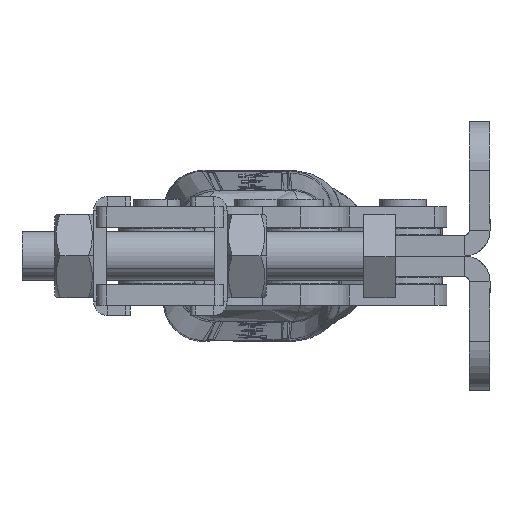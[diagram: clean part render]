
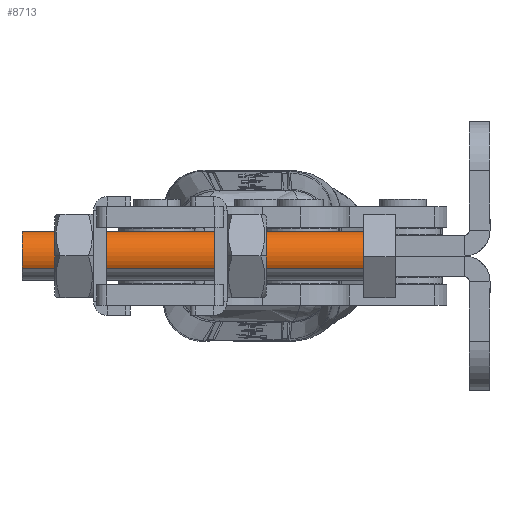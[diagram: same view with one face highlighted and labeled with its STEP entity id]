
A CAD part, left-side view. The second image highlights one B-rep face of the part: STEP entity #8713.
In plain terms, the highlighted cylindrical face has radius 5 mm (diameter 10 mm), a partial arc.
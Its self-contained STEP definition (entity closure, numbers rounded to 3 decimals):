
#50 = DIRECTION ( 'NONE',  ( 0., 0., 1. ) ) ;
#77 = CARTESIAN_POINT ( 'NONE',  ( 0., -70., 5. ) ) ;
#790 = VERTEX_POINT ( 'NONE', #77 ) ;
#1097 = ORIENTED_EDGE ( 'NONE', *, *, #13855, .F. ) ;
#1263 = VERTEX_POINT ( 'NONE', #19437 ) ;
#2972 = CARTESIAN_POINT ( 'NONE',  ( 0., -70., 5. ) ) ;
#3173 = DIRECTION ( 'NONE',  ( 0., 1., 0. ) ) ;
#3580 = VECTOR ( 'NONE', #3173, 1000. ) ;
#3670 = CIRCLE ( 'NONE', #15169, 5. ) ;
#3691 = CARTESIAN_POINT ( 'NONE',  ( 0., -70., 0. ) ) ;
#3880 = FACE_OUTER_BOUND ( 'NONE', #4200, .T. ) ;
#4200 = EDGE_LOOP ( 'NONE', ( #19888, #1097, #8106, #11507 ) ) ;
#6887 = CIRCLE ( 'NONE', #19826, 5. ) ;
#6888 = VERTEX_POINT ( 'NONE', #17125 ) ;
#7399 = DIRECTION ( 'NONE',  ( 0., 1., 0. ) ) ;
#8106 = ORIENTED_EDGE ( 'NONE', *, *, #14860, .T. ) ;
#8713 = ADVANCED_FACE ( 'NONE', ( #3880 ), #12890, .T. ) ;
#9216 = DIRECTION ( 'NONE',  ( 0., 0., 1. ) ) ;
#10295 = DIRECTION ( 'NONE',  ( 0., -1., 0. ) ) ;
#10852 = DIRECTION ( 'NONE',  ( 0., -1., 0. ) ) ;
#11507 = ORIENTED_EDGE ( 'NONE', *, *, #18089, .T. ) ;
#12890 = CYLINDRICAL_SURFACE ( 'NONE', #23190, 5. ) ;
#13855 = EDGE_CURVE ( 'NONE', #790, #1263, #6887, .T. ) ;
#13939 = CARTESIAN_POINT ( 'NONE',  ( 0., -70., -5. ) ) ;
#14145 = VECTOR ( 'NONE', #21121, 1000. ) ;
#14854 = VERTEX_POINT ( 'NONE', #17490 ) ;
#14860 = EDGE_CURVE ( 'NONE', #790, #14854, #18981, .T. ) ;
#15169 = AXIS2_PLACEMENT_3D ( 'NONE', #21665, #10852, #50 ) ;
#16805 = LINE ( 'NONE', #13939, #3580 ) ;
#17125 = CARTESIAN_POINT ( 'NONE',  ( 0., 0., -5. ) ) ;
#17490 = CARTESIAN_POINT ( 'NONE',  ( 0., 0., 5. ) ) ;
#18089 = EDGE_CURVE ( 'NONE', #14854, #6888, #3670, .T. ) ;
#18981 = LINE ( 'NONE', #2972, #14145 ) ;
#19437 = CARTESIAN_POINT ( 'NONE',  ( 0., -70., -5. ) ) ;
#19826 = AXIS2_PLACEMENT_3D ( 'NONE', #21095, #10295, #22902 ) ;
#19888 = ORIENTED_EDGE ( 'NONE', *, *, #21486, .F. ) ;
#21095 = CARTESIAN_POINT ( 'NONE',  ( 0., -70., 0. ) ) ;
#21121 = DIRECTION ( 'NONE',  ( 0., 1., 0. ) ) ;
#21486 = EDGE_CURVE ( 'NONE', #1263, #6888, #16805, .T. ) ;
#21665 = CARTESIAN_POINT ( 'NONE',  ( 0., 0., 0. ) ) ;
#22902 = DIRECTION ( 'NONE',  ( 0., 0., -1. ) ) ;
#23190 = AXIS2_PLACEMENT_3D ( 'NONE', #3691, #7399, #9216 ) ;
